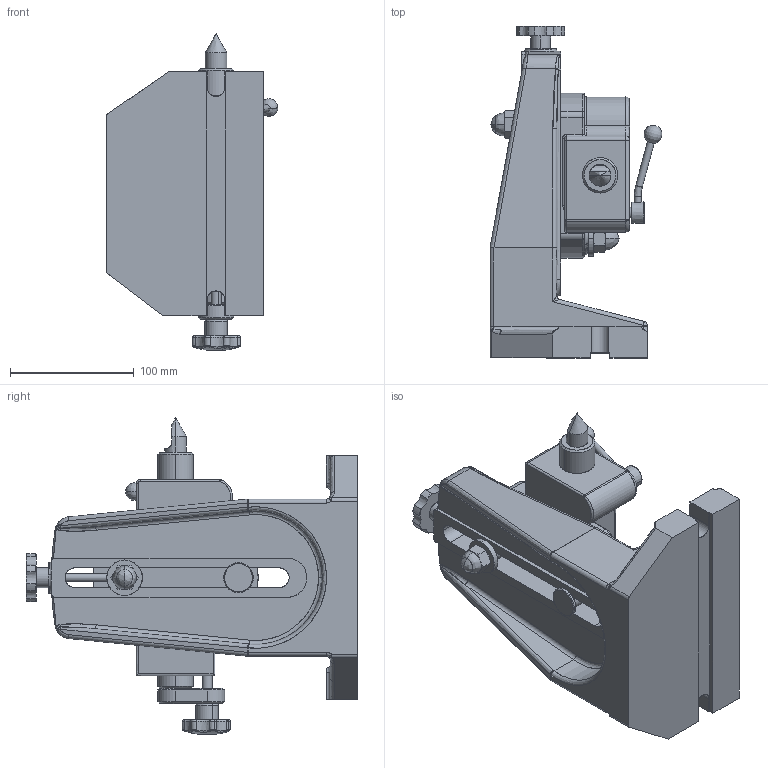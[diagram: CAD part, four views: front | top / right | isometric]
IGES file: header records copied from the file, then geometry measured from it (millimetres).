
Start section: SolidWorks IGES file using analytic representation for surfaces
Global section: file name: R:\Drawings\Files saved as other types\Solid_Models\MODELS FOR PUBLIC\30197 TALL TAILSTOCK.IGS; native system: SolidWorks 2012; preprocessor: SolidWorks 2012; author: RTooley; date: 140224.085620; units: millimetre
Bounding box: 138.9 x 268 x 255.53 mm (x, y, z)
Surface area: 276790.8 mm2 (no closed solid volume)
Topology: 0 solids, 0 shells, 543 faces, 6447 edges, 6425 vertices
Faces by surface type: revolution 310, bspline 233
